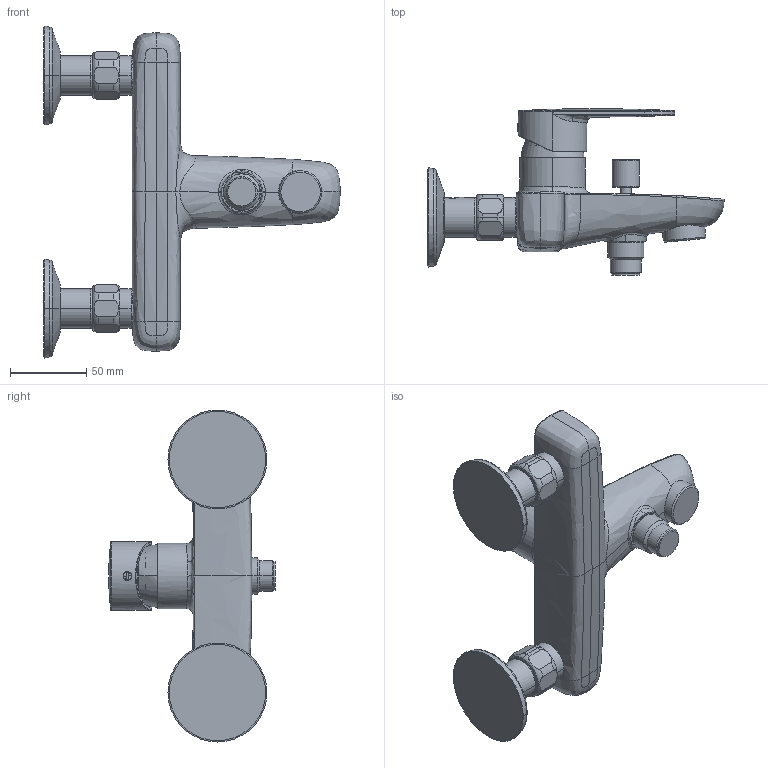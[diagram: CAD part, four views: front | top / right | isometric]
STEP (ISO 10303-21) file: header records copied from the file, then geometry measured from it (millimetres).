
FILE_DESCRIPTION((''),'2;1');
FILE_NAME('20_382_013_XXX','2018-02-20T',('ES997'),(''),'CREO PARAMETRIC BY PTC INC, 2016260','CREO PARAMETRIC BY PTC INC, 2016260','');
FILE_SCHEMA(('CONFIG_CONTROL_DESIGN'));
Length unit declared in the file: millimetre
Products named in the file (1): 20_382_013_XXX
Bounding box: 194.65 x 109.21 x 218 mm (x, y, z)
Volume: 558456.6 mm3; surface area: 84854.3 mm2
Topology: 2 solids, 2 shells, 397 faces, 948 edges, 568 vertices
Faces by surface type: plane 100, cylinder 93, bspline 91, torus 65, cone 42, sphere 6
Entity records: 24558 total; most frequent: CARTESIAN_POINT 16078, ORIENTED_EDGE 1880, DIRECTION 1577, EDGE_CURVE 940, AXIS2_PLACEMENT_3D 655, VERTEX_POINT 568, EDGE_LOOP 418, FACE_OUTER_BOUND 397
